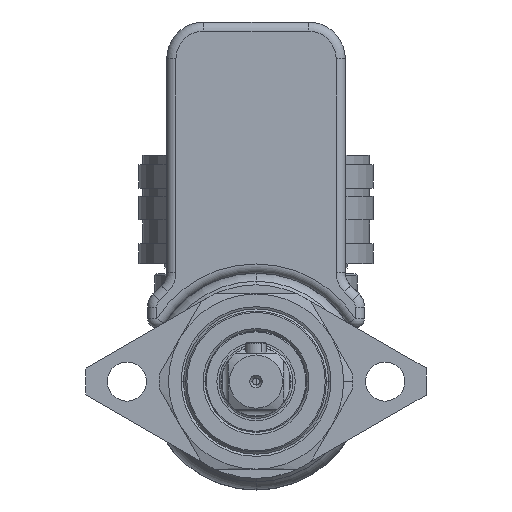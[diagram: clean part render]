
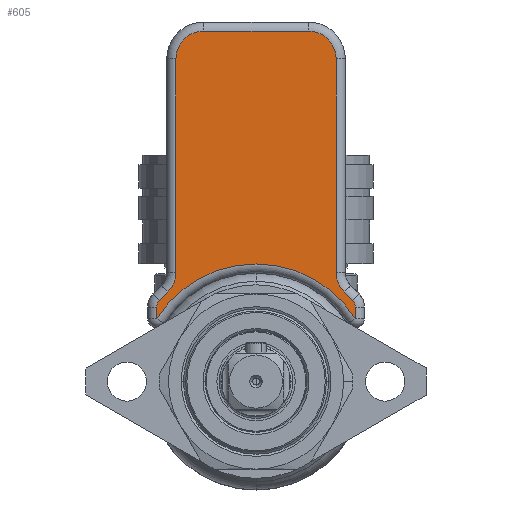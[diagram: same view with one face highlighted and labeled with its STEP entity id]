
A CAD part, left-side view. The second image highlights one B-rep face of the part: STEP entity #605.
In plain terms, the highlighted planar face has unit normal (-1, 0, 0).
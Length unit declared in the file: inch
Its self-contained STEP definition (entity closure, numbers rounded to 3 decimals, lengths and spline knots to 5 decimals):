
#605 = ADVANCED_FACE ( 'NONE', ( #34703 ), #28580, .T. ) ;
#1615 = VERTEX_POINT ( 'NONE', #23898 ) ;
#1616 = VERTEX_POINT ( 'NONE', #23899 ) ;
#1617 = VERTEX_POINT ( 'NONE', #23900 ) ;
#1618 = VERTEX_POINT ( 'NONE', #23901 ) ;
#1619 = VERTEX_POINT ( 'NONE', #23902 ) ;
#1620 = VERTEX_POINT ( 'NONE', #23903 ) ;
#1897 = VERTEX_POINT ( 'NONE', #24180 ) ;
#1907 = VERTEX_POINT ( 'NONE', #24190 ) ;
#1930 = VERTEX_POINT ( 'NONE', #24213 ) ;
#1932 = VERTEX_POINT ( 'NONE', #24215 ) ;
#1933 = VERTEX_POINT ( 'NONE', #24216 ) ;
#1953 = VERTEX_POINT ( 'NONE', #24236 ) ;
#1965 = VERTEX_POINT ( 'NONE', #24248 ) ;
#1968 = VERTEX_POINT ( 'NONE', #24251 ) ;
#14987 = CIRCLE ( 'NONE', #22264, 0.188 ) ;
#14988 = LINE ( 'NONE', #16868, #14991 ) ;
#14989 = LINE ( 'NONE', #16891, #15006 ) ;
#14990 = CIRCLE ( 'NONE', #22265, 0.188 ) ;
#14991 = VECTOR ( 'NONE', #16839, 39.37008 ) ;
#14992 = LINE ( 'NONE', #16832, #14994 ) ;
#14993 = CIRCLE ( 'NONE', #22266, 0.187 ) ;
#14994 = VECTOR ( 'NONE', #16867, 39.37008 ) ;
#14995 = LINE ( 'NONE', #16872, #14997 ) ;
#14996 = CIRCLE ( 'NONE', #22267, 0.063 ) ;
#14997 = VECTOR ( 'NONE', #16873, 39.37008 ) ;
#14998 = LINE ( 'NONE', #16877, #15000 ) ;
#14999 = CIRCLE ( 'NONE', #22268, 0.187 ) ;
#15000 = VECTOR ( 'NONE', #16878, 39.37008 ) ;
#15001 = LINE ( 'NONE', #16882, #15003 ) ;
#15003 = VECTOR ( 'NONE', #16883, 39.37008 ) ;
#15004 = CIRCLE ( 'NONE', #22271, 0.063 ) ;
#15006 = VECTOR ( 'NONE', #16887, 39.37008 ) ;
#15007 = LINE ( 'NONE', #16903, #15011 ) ;
#15011 = VECTOR ( 'NONE', #16899, 39.37008 ) ;
#15219 = CIRCLE ( 'NONE', #22277, 0.797 ) ;
#16832 = CARTESIAN_POINT ( 'NONE',  ( -3.10452, -0.543, 0.54306 ) ) ;
#16839 = DIRECTION ( 'NONE',  ( 0., 1., 0. ) ) ;
#16867 = DIRECTION ( 'NONE',  ( 0., 0., 1. ) ) ;
#16868 = CARTESIAN_POINT ( 'NONE',  ( -3.10452, 0.61, 2.41284 ) ) ;
#16869 = CARTESIAN_POINT ( 'NONE',  ( -3.10452, 0.355, 2.22484 ) ) ;
#16870 = DIRECTION ( 'NONE',  ( -1., 0., 0. ) ) ;
#16871 = DIRECTION ( 'NONE',  ( 0., 1., 0. ) ) ;
#16872 = CARTESIAN_POINT ( 'NONE',  ( -3.10452, -0.04455, 1.19761 ) ) ;
#16873 = DIRECTION ( 'NONE',  ( 0., 0.707, 0.707 ) ) ;
#16874 = CARTESIAN_POINT ( 'NONE',  ( -3.10452, -0.355, 2.22484 ) ) ;
#16875 = DIRECTION ( 'NONE',  ( -1., 0., 0. ) ) ;
#16876 = DIRECTION ( 'NONE',  ( 0., 1., 0. ) ) ;
#16877 = CARTESIAN_POINT ( 'NONE',  ( -3.10452, -0.673, 0.54306 ) ) ;
#16878 = DIRECTION ( 'NONE',  ( 0., 0., 1. ) ) ;
#16879 = CARTESIAN_POINT ( 'NONE',  ( -3.10452, -0.73, 0.77661 ) ) ;
#16880 = DIRECTION ( 'NONE',  ( 1., 0., 0. ) ) ;
#16881 = DIRECTION ( 'NONE',  ( 0., 1., 0. ) ) ;
#16882 = CARTESIAN_POINT ( 'NONE',  ( -3.10452, 0.543, 0.54306 ) ) ;
#16883 = DIRECTION ( 'NONE',  ( 0., 0., -1. ) ) ;
#16884 = CARTESIAN_POINT ( 'NONE',  ( -3.10452, -0.61, 0.54306 ) ) ;
#16885 = DIRECTION ( 'NONE',  ( -1., 0., 0. ) ) ;
#16886 = DIRECTION ( 'NONE',  ( 0., 1., 0. ) ) ;
#16887 = DIRECTION ( 'NONE',  ( 0., 0.707, -0.707 ) ) ;
#16888 = CARTESIAN_POINT ( 'NONE',  ( -3.10452, 0.73, 0.77661 ) ) ;
#16889 = DIRECTION ( 'NONE',  ( 1., 0., 0. ) ) ;
#16890 = DIRECTION ( 'NONE',  ( 0., 1., 0. ) ) ;
#16891 = CARTESIAN_POINT ( 'NONE',  ( -3.10452, 0.65455, 0.58761 ) ) ;
#16899 = DIRECTION ( 'NONE',  ( 0., 0., -1. ) ) ;
#16900 = CARTESIAN_POINT ( 'NONE',  ( -3.10452, 0.61, 0.54306 ) ) ;
#16901 = DIRECTION ( 'NONE',  ( -1., 0., 0. ) ) ;
#16902 = DIRECTION ( 'NONE',  ( 0., 1., 0. ) ) ;
#16903 = CARTESIAN_POINT ( 'NONE',  ( -3.10452, 0.673, 0.54306 ) ) ;
#17123 = CARTESIAN_POINT ( 'NONE',  ( -3.10452, 0., 0.03784 ) ) ;
#17124 = DIRECTION ( 'NONE',  ( 1., 0., 0. ) ) ;
#17125 = DIRECTION ( 'NONE',  ( 0., 1., 0. ) ) ;
#22264 = AXIS2_PLACEMENT_3D ( 'NONE', #16869, #16870, #16871 ) ;
#22265 = AXIS2_PLACEMENT_3D ( 'NONE', #16874, #16875, #16876 ) ;
#22266 = AXIS2_PLACEMENT_3D ( 'NONE', #16879, #16880, #16881 ) ;
#22267 = AXIS2_PLACEMENT_3D ( 'NONE', #16884, #16885, #16886 ) ;
#22268 = AXIS2_PLACEMENT_3D ( 'NONE', #16888, #16889, #16890 ) ;
#22271 = AXIS2_PLACEMENT_3D ( 'NONE', #16900, #16901, #16902 ) ;
#22277 = AXIS2_PLACEMENT_3D ( 'NONE', #17123, #17124, #17125 ) ;
#23898 = CARTESIAN_POINT ( 'NONE',  ( -3.10452, 0.355, 2.41284 ) ) ;
#23899 = CARTESIAN_POINT ( 'NONE',  ( -3.10452, -0.355, 2.41284 ) ) ;
#23900 = CARTESIAN_POINT ( 'NONE',  ( -3.10452, -0.543, 2.22484 ) ) ;
#23901 = CARTESIAN_POINT ( 'NONE',  ( -3.10452, -0.543, 0.77661 ) ) ;
#23902 = CARTESIAN_POINT ( 'NONE',  ( -3.10452, -0.59777, 0.64438 ) ) ;
#23903 = CARTESIAN_POINT ( 'NONE',  ( -3.10452, -0.65455, 0.58761 ) ) ;
#24180 = CARTESIAN_POINT ( 'NONE',  ( -3.10452, 0.65455, 0.58761 ) ) ;
#24190 = CARTESIAN_POINT ( 'NONE',  ( -3.10452, 0.543, 0.77661 ) ) ;
#24213 = CARTESIAN_POINT ( 'NONE',  ( -3.10452, -0.673, 0.54306 ) ) ;
#24215 = CARTESIAN_POINT ( 'NONE',  ( -3.10452, 0.673, 0.46478 ) ) ;
#24216 = CARTESIAN_POINT ( 'NONE',  ( -3.10452, 0.673, 0.54306 ) ) ;
#24236 = CARTESIAN_POINT ( 'NONE',  ( -3.10452, 0.59777, 0.64438 ) ) ;
#24248 = CARTESIAN_POINT ( 'NONE',  ( -3.10452, 0.543, 2.22484 ) ) ;
#24251 = CARTESIAN_POINT ( 'NONE',  ( -3.10452, -0.673, 0.46478 ) ) ;
#28563 = DIRECTION ( 'NONE',  ( 0., 1., 0. ) ) ;
#28565 = DIRECTION ( 'NONE',  ( -1., 0., 0. ) ) ;
#28580 = PLANE ( 'NONE',  #31869 ) ;
#28582 = CARTESIAN_POINT ( 'NONE',  ( -3.10452, 0.61, 0.54306 ) ) ;
#31577 = EDGE_CURVE ( 'NONE', #1615, #1965, #14987, .T. ) ;
#31578 = EDGE_CURVE ( 'NONE', #1616, #1615, #14988, .T. ) ;
#31579 = EDGE_CURVE ( 'NONE', #1617, #1616, #14990, .T. ) ;
#31580 = EDGE_CURVE ( 'NONE', #1618, #1617, #14992, .T. ) ;
#31581 = EDGE_CURVE ( 'NONE', #1619, #1618, #14993, .T. ) ;
#31582 = EDGE_CURVE ( 'NONE', #1620, #1619, #14995, .T. ) ;
#31583 = EDGE_CURVE ( 'NONE', #1930, #1620, #14996, .T. ) ;
#31584 = EDGE_CURVE ( 'NONE', #1968, #1930, #14998, .T. ) ;
#31585 = EDGE_CURVE ( 'NONE', #1907, #1953, #14999, .T. ) ;
#31586 = EDGE_CURVE ( 'NONE', #1965, #1907, #15001, .T. ) ;
#31588 = EDGE_CURVE ( 'NONE', #1953, #1897, #14989, .T. ) ;
#31590 = EDGE_CURVE ( 'NONE', #1897, #1933, #15004, .T. ) ;
#31592 = EDGE_CURVE ( 'NONE', #1933, #1932, #15007, .T. ) ;
#31699 = EDGE_CURVE ( 'NONE', #1932, #1968, #15219, .T. ) ;
#31869 = AXIS2_PLACEMENT_3D ( 'NONE', #28582, #28565, #28563 ) ;
#33806 = EDGE_LOOP ( 'NONE', ( #40309, #40310, #40311, #40312, #40313, #40314, #40315, #40316, #40317, #40318, #40319, #40320, #40321, #40322 ) ) ;
#34703 = FACE_OUTER_BOUND ( 'NONE', #33806, .T. ) ;
#40309 = ORIENTED_EDGE ( 'NONE', *, *, #31586, .T. ) ;
#40310 = ORIENTED_EDGE ( 'NONE', *, *, #31585, .T. ) ;
#40311 = ORIENTED_EDGE ( 'NONE', *, *, #31588, .T. ) ;
#40312 = ORIENTED_EDGE ( 'NONE', *, *, #31590, .T. ) ;
#40313 = ORIENTED_EDGE ( 'NONE', *, *, #31592, .T. ) ;
#40314 = ORIENTED_EDGE ( 'NONE', *, *, #31699, .T. ) ;
#40315 = ORIENTED_EDGE ( 'NONE', *, *, #31584, .T. ) ;
#40316 = ORIENTED_EDGE ( 'NONE', *, *, #31583, .T. ) ;
#40317 = ORIENTED_EDGE ( 'NONE', *, *, #31582, .T. ) ;
#40318 = ORIENTED_EDGE ( 'NONE', *, *, #31581, .T. ) ;
#40319 = ORIENTED_EDGE ( 'NONE', *, *, #31580, .T. ) ;
#40320 = ORIENTED_EDGE ( 'NONE', *, *, #31579, .T. ) ;
#40321 = ORIENTED_EDGE ( 'NONE', *, *, #31578, .T. ) ;
#40322 = ORIENTED_EDGE ( 'NONE', *, *, #31577, .T. ) ;
